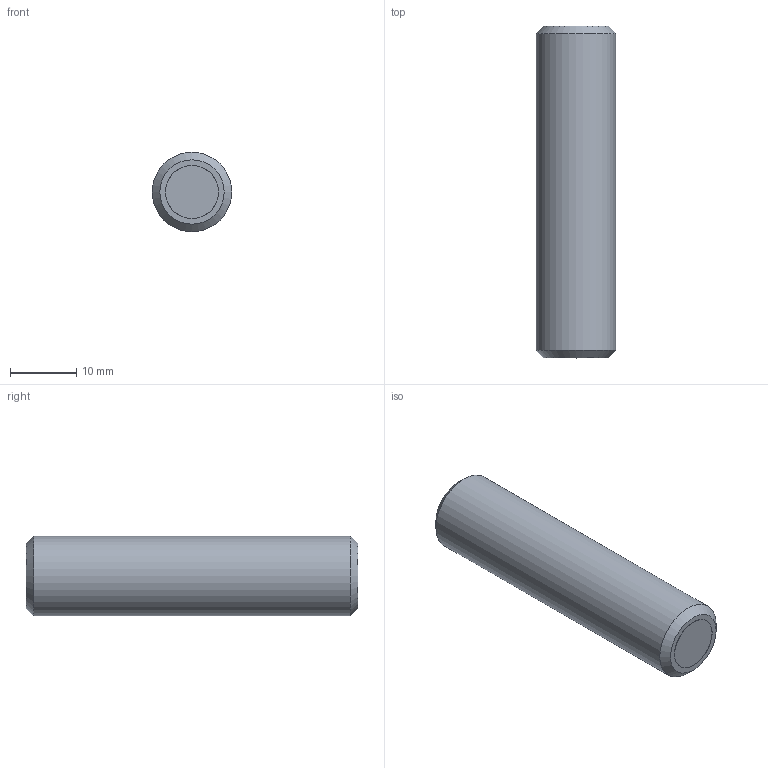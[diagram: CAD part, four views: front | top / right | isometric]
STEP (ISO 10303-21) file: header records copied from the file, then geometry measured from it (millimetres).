
FILE_DESCRIPTION(/* description */ ('STEP AP214'),/* implementation_level */ '2;1');
FILE_NAME(/* name */ 'Grub screw with retaining magnet GN 913.6-M12-50-ND',/* time_stamp */ '2023-10-03T11:27:27+02:00',/* author */ ('License CC BY-ND 4.0'),/* organization */ ('CADENAS'),/* preprocessor_version */ 'ST-DEVELOPER v19.3',/* originating_system */ 'PARTsolutions',/* authorisation */ ' ');
FILE_SCHEMA (('AUTOMOTIVE_DESIGN {1 0 10303 214 3 1 1}'));
Length unit declared in the file: millimetre
Products named in the file (1): Grub screw with retaining magnet GN 913.6-M12-50-ND
Bounding box: 12 x 50 x 12 mm (x, y, z)
Volume: 5413.2 mm3; surface area: 2181.4 mm2
Topology: 1 solids, 1 shells, 22 faces, 46 edges, 28 vertices
Faces by surface type: plane 16, cone 3, cylinder 3
Full cylindrical faces by diameter (mm): 7.96 x1, 8 x1, 12 x1
Entity records: 566 total; most frequent: DIRECTION 98, CARTESIAN_POINT 88, ORIENTED_EDGE 76, EDGE_CURVE 38, AXIS2_PLACEMENT_3D 37, FACE_BOUND 31, EDGE_LOOP 30, VERTEX_POINT 27
